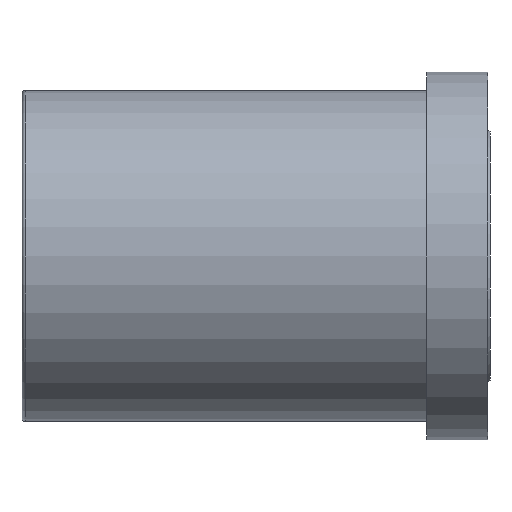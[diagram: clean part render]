
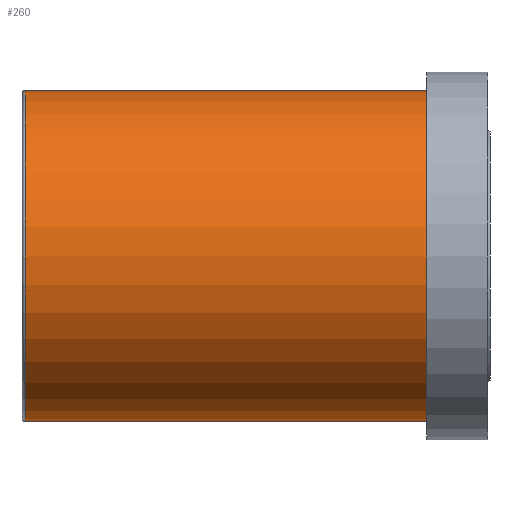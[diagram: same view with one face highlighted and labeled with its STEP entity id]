
A CAD part, left-side view. The second image highlights one B-rep face of the part: STEP entity #260.
In plain terms, the highlighted cylindrical face has radius 27 mm (diameter 54 mm), a partial arc.
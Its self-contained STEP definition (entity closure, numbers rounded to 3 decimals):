
#17 = CARTESIAN_POINT ( 'NONE',  ( 0., 0., 27. ) ) ;
#43 = AXIS2_PLACEMENT_3D ( 'NONE', #103, #380, #142 ) ;
#60 = AXIS2_PLACEMENT_3D ( 'NONE', #65, #339, #104 ) ;
#65 = CARTESIAN_POINT ( 'NONE',  ( 0., 0., 0. ) ) ;
#73 = CARTESIAN_POINT ( 'NONE',  ( 0., 65.5, 27. ) ) ;
#103 = CARTESIAN_POINT ( 'NONE',  ( 0., 65.5, 0. ) ) ;
#104 = DIRECTION ( 'NONE',  ( 0., 0., -1. ) ) ;
#115 = LINE ( 'NONE', #474, #326 ) ;
#121 = DIRECTION ( 'NONE',  ( 0., -1., 0. ) ) ;
#122 = VERTEX_POINT ( 'NONE', #439 ) ;
#142 = DIRECTION ( 'NONE',  ( 0., 0., -1. ) ) ;
#144 = CIRCLE ( 'NONE', #60, 27. ) ;
#167 = CARTESIAN_POINT ( 'NONE',  ( 0., 0., -27. ) ) ;
#170 = ORIENTED_EDGE ( 'NONE', *, *, #182, .F. ) ;
#181 = ORIENTED_EDGE ( 'NONE', *, *, #338, .T. ) ;
#182 = EDGE_CURVE ( 'NONE', #469, #340, #115, .T. ) ;
#184 = VECTOR ( 'NONE', #121, 1000. ) ;
#203 = CARTESIAN_POINT ( 'NONE',  ( 0., 0., 0. ) ) ;
#260 = ADVANCED_FACE ( 'NONE', ( #298 ), #495, .T. ) ;
#278 = ORIENTED_EDGE ( 'NONE', *, *, #291, .T. ) ;
#279 = DIRECTION ( 'NONE',  ( 0., -1., 0. ) ) ;
#284 = ORIENTED_EDGE ( 'NONE', *, *, #369, .F. ) ;
#291 = EDGE_CURVE ( 'NONE', #358, #122, #396, .T. ) ;
#298 = FACE_OUTER_BOUND ( 'NONE', #365, .T. ) ;
#311 = DIRECTION ( 'NONE',  ( 0., -1., 0. ) ) ;
#326 = VECTOR ( 'NONE', #311, 1000. ) ;
#338 = EDGE_CURVE ( 'NONE', #469, #358, #359, .T. ) ;
#339 = DIRECTION ( 'NONE',  ( 0., -1., 0. ) ) ;
#340 = VERTEX_POINT ( 'NONE', #17 ) ;
#358 = VERTEX_POINT ( 'NONE', #463 ) ;
#359 = CIRCLE ( 'NONE', #43, 27. ) ;
#365 = EDGE_LOOP ( 'NONE', ( #170, #181, #278, #284 ) ) ;
#369 = EDGE_CURVE ( 'NONE', #340, #122, #144, .T. ) ;
#380 = DIRECTION ( 'NONE',  ( 0., -1., 0. ) ) ;
#390 = AXIS2_PLACEMENT_3D ( 'NONE', #203, #279, #480 ) ;
#396 = LINE ( 'NONE', #167, #184 ) ;
#439 = CARTESIAN_POINT ( 'NONE',  ( 0., 0., -27. ) ) ;
#463 = CARTESIAN_POINT ( 'NONE',  ( 0., 65.5, -27. ) ) ;
#469 = VERTEX_POINT ( 'NONE', #73 ) ;
#474 = CARTESIAN_POINT ( 'NONE',  ( 0., 0., 27. ) ) ;
#480 = DIRECTION ( 'NONE',  ( 0., 0., -1. ) ) ;
#495 = CYLINDRICAL_SURFACE ( 'NONE', #390, 27. ) ;
